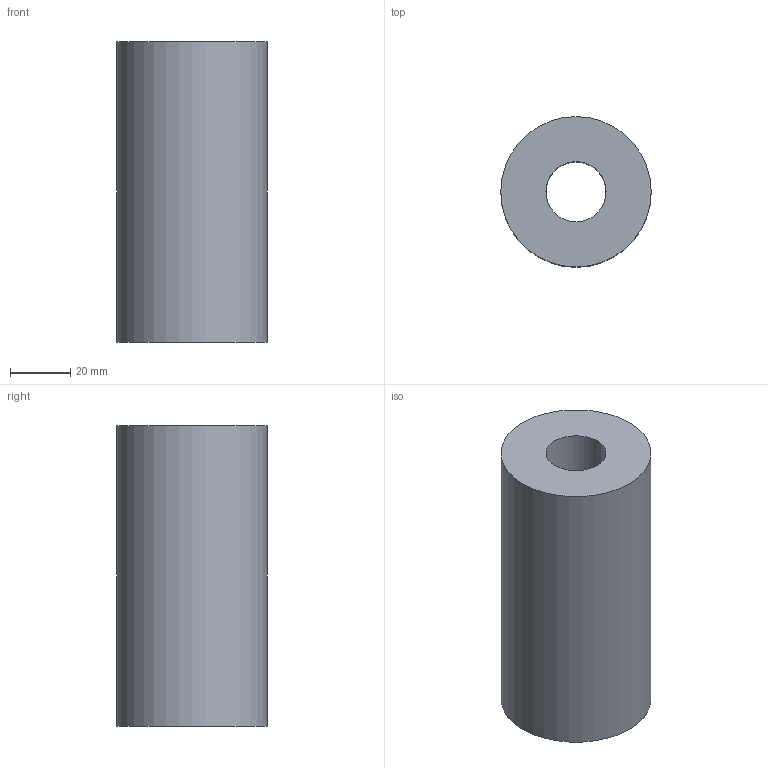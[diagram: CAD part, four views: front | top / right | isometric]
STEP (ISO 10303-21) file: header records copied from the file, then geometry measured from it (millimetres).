
FILE_DESCRIPTION(('Open CASCADE Model'),'2;1');
FILE_NAME('Open CASCADE Shape Model','2026-11-13T18:44:29',('Author'),( 'Open CASCADE'),'Open CASCADE STEP processor 7.8','Open CASCADE 7.8' ,'Unknown');
FILE_SCHEMA(('AUTOMOTIVE_DESIGN { 1 0 10303 214 1 1 1 1 }'));
Length unit declared in the file: millimetre
Products named in the file (1): Open CASCADE STEP translator 7.8 2
Bounding box: 50 x 50 x 100 mm (x, y, z)
Volume: 164933.6 mm3; surface area: 25289.8 mm2
Topology: 1 solids, 1 shells, 4 faces, 6 edges, 4 vertices
Faces by surface type: cylinder 2, plane 2
Full cylindrical faces by diameter (mm): 20 x1, 50 x1
Entity records: 186 total; most frequent: DIRECTION 32, CARTESIAN_POINT 27, ORIENTED_EDGE 12, PCURVE 12, DEFINITIONAL_REPRESENTATION 12, LINE 10, VECTOR 10, AXIS2_PLACEMENT_3D 9
